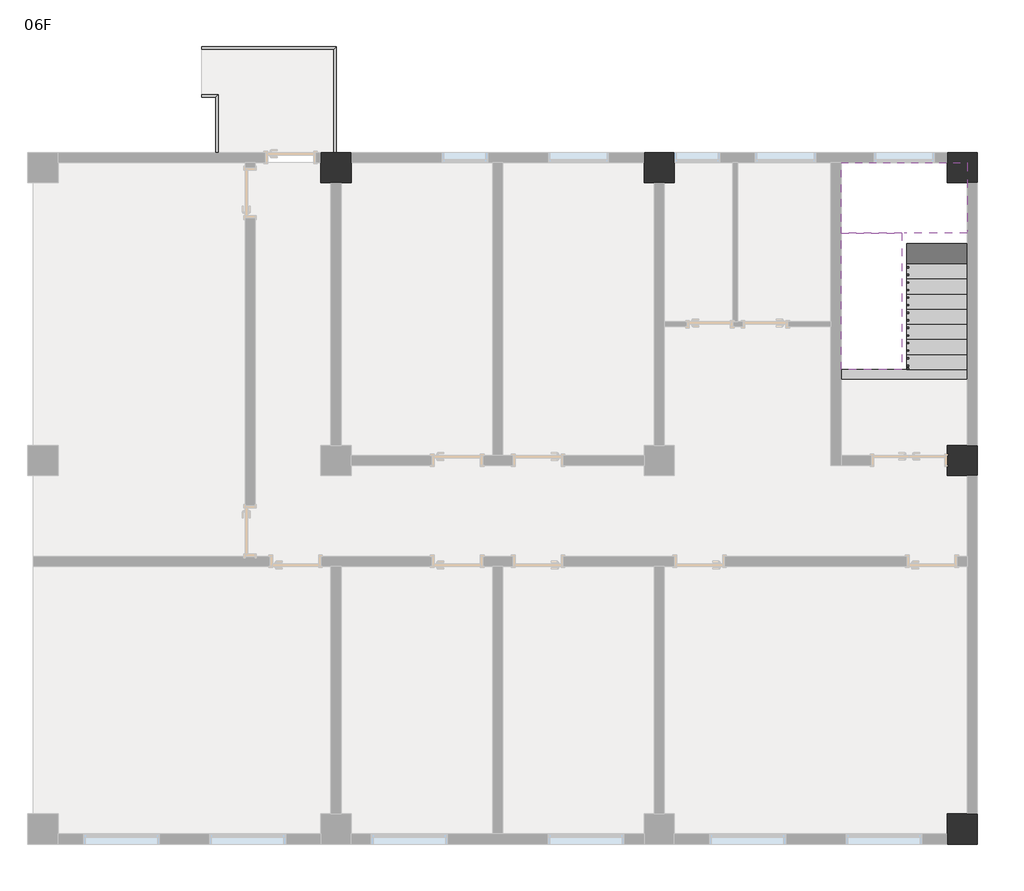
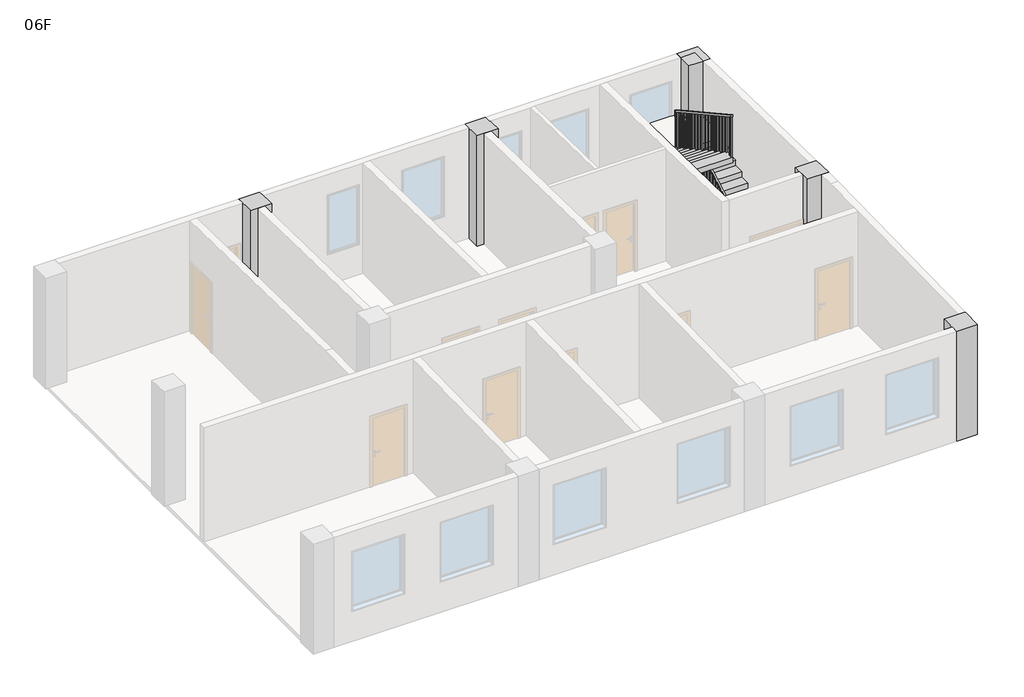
# One storey, part 2 of 2: 5 columns, 3 railings, 2 stair flights, 1 beam, 1 slab.
"""IFC4 building model written with IfcOpenShell, lengths in millimetres."""

from ifc_helpers import new_model, si_unit, frame, origin, place, context, project, spatial, polyline, outline, extrude, faceted_brep, transform, mapped, element, save
from components import beam_200_x_350mm_bc6e23a3

model = new_model("IFC4")

# Units and contexts
model_context = context("Model", 3, world=origin())
ifc_project = project(units=[si_unit("LENGTHUNIT", "METRE", prefix="MILLI")], contexts=[model_context])

# Site, building, storey
site = spatial("IfcSite", under=ifc_project)
building = spatial("IfcBuilding", under=site)
storey = spatial("IfcBuildingStorey", under=building, Name="06F", Elevation=17100.0)

# Beam
placement = place(None, origin())
beam_200_x_350mm_shape = beam_200_x_350mm_bc6e23a3(model_context)
element("IfcBeam", 1, ObjectType="混凝土 - 矩形梁 : 200 x 350mm", at=placement, inside=storey, context=model_context, shape_type="MappedRepresentation", body=[
    mapped(beam_200_x_350mm_shape, transform((17250.0, 9200.0, 16925.0), x_axis=(1.0, 0.0, 0.0), y_axis=(0.0, 1.0, 0.0), z_axis=(0.0, 0.0, 1.0))),
])

# Columns
element("IfcColumn", 2, ObjectType="混凝土 - 矩形 - 柱 : 600 x 600mm", at=placement, inside=storey, context=model_context, shape_type="SweptSolid", body=[
    extrude(outline(polyline([(13600.0, 17100.0), (13000.0, 17100.0), (13000.0, 20411.980002), (13600.0, 20399.980002), (13600.0, 17100.0)])), frame((5700.0, 0.0, 0.0), z_axis=(1.0, 0.0, 0.0), x_axis=(0.0, 1.0, 0.0)), (0.0, 0.0, 1.0), 600.0),
])
element("IfcColumn", 3, ObjectType="混凝土 - 矩形 - 柱 : 600 x 600mm", at=placement, inside=storey, context=model_context, shape_type="SweptSolid", body=[
    extrude(outline(polyline([(13600.0, 17100.0), (13000.0, 17100.0), (13000.0, 20411.980002), (13600.0, 20399.980002), (13600.0, 17100.0)])), frame((12100.0, 0.0, 0.0), z_axis=(1.0, 0.0, 0.0), x_axis=(0.0, 1.0, 0.0)), (0.0, 0.0, 1.0), 600.0),
])
element("IfcColumn", 4, ObjectType="混凝土 - 矩形 - 柱 : 600 x 600mm", at=placement, inside=storey, context=model_context, shape_type="Brep", body=[
    faceted_brep([(18700.0, 13600.0, 17100.0), (18700.0, 13000.0, 17100.0), (18100.0, 13000.0, 17100.0), (18100.0, 13600.0, 17100.0), (18700.0, 13600.0, 20399.980002), (18700.0, 13000.0, 20411.980002), (18500.0, 13000.0, 20411.980002), (18100.0, 13000.0, 20411.980002), (18100.0, 13400.0, 20411.980002), (18100.0, 13400.0, 20403.980002), (18100.0, 13600.0, 20399.980002), (18500.0, 13400.0, 20411.980002), (18500.0, 13400.0, 20403.980002)], [[[0, 1, 2, 3]], [[1, 0, 4, 5]], [[2, 1, 5, 6, 7]], [[3, 2, 7, 8, 9, 10]], [[0, 3, 10, 4]], [[8, 7, 6, 11]], [[12, 6, 5, 4, 10, 9]], [[12, 9, 8, 11]], [[6, 12, 11]]]),
])
element("IfcColumn", 5, ObjectType="混凝土 - 矩形 - 柱 : 600 x 600mm", at=placement, inside=storey, context=model_context, shape_type="SweptSolid", body=[
    extrude(outline(polyline([(7800.0, 17100.0), (7200.0, 17100.0), (7200.0, 20527.980002), (7800.0, 20515.980002), (7800.0, 17100.0)])), frame((18100.0, 0.0, 0.0), z_axis=(1.0, 0.0, 0.0), x_axis=(0.0, 1.0, 0.0)), (0.0, 0.0, 1.0), 600.0),
])
element("IfcColumn", 6, ObjectType="混凝土 - 矩形 - 柱 : 600 x 600mm", at=placement, inside=storey, context=model_context, shape_type="SweptSolid", body=[
    extrude(outline(polyline([(500.0, 17100.0), (-100.0, 17100.0), (-100.0, 20399.980002), (500.0, 20411.980002), (500.0, 17100.0)])), frame((18100.0, 0.0, 0.0), z_axis=(1.0, 0.0, 0.0), x_axis=(0.0, 1.0, 0.0)), (0.0, 0.0, 1.0), 600.0),
])

# Railings
element("IfcRailing", 7, ObjectType="1100mm", at=placement, inside=storey, context=model_context, shape_type="SolidModel", body=[
    faceted_brep([(17300.4, 9300.0, 18365.0), (17300.4, 9300.0, 18307.9364389), (17350.4, 9300.0, 18307.9364389), (17350.4, 9300.0, 18365.0), (17300.4, 11925.4, 19808.97), (17300.4, 11975.4, 19779.4064389), (17350.4, 11975.4, 19779.4064389), (17350.4, 11925.4, 19808.97), (17300.4, 11925.4, 19850.0), (17300.4, 11975.4, 19800.0), (17350.4, 11975.4, 19800.0), (17350.4, 11925.4, 19850.0), (17300.4, 12000.4, 19850.0), (17300.4, 12000.4, 19800.0), (17350.4, 12050.4, 19800.0), (17350.4, 12050.4, 19850.0), (17225.4, 12000.4, 19850.0), (17225.4, 12000.4, 19800.0), (17225.4, 12050.4, 19800.0), (17225.4, 12050.4, 19850.0), (17199.6, 12000.4, 19850.0), (17199.6, 12050.4, 19850.0), (17149.6, 12050.4, 19800.0), (17149.6, 12000.4, 19800.0)], [[[0, 1, 2, 3]], [[1, 0, 4, 5]], [[2, 1, 5, 6]], [[3, 2, 6, 7]], [[0, 3, 7, 4]], [[5, 4, 8, 9]], [[6, 5, 9, 10]], [[7, 6, 10, 11]], [[4, 7, 11, 8]], [[9, 8, 12, 13]], [[10, 9, 13, 14]], [[11, 10, 14, 15]], [[8, 11, 15, 12]], [[13, 12, 16, 17]], [[14, 13, 17, 18]], [[15, 14, 18, 19]], [[12, 15, 19, 16]], [[20, 21, 22, 23]], [[17, 16, 20, 23]], [[18, 17, 23, 22]], [[19, 18, 22, 21]], [[16, 19, 21, 20]]]),
    faceted_brep([(17199.6, 12000.4, 19850.0), (17149.6, 12000.4, 19800.0), (17149.6, 12050.4, 19800.0), (17199.6, 12050.4, 19850.0), (17199.6, 12000.4, 19957.7164389), (17199.6, 12050.4, 19987.28), (17149.6, 12050.4, 19987.28), (17149.6, 12000.4, 19957.7164389)], [[[0, 1, 2, 3]], [[4, 5, 6, 7]], [[1, 0, 4, 7]], [[2, 1, 7, 6]], [[3, 2, 6, 5]], [[0, 3, 5, 4]]]),
    faceted_brep([(17199.6, 12050.4, 19987.28), (17199.6, 12000.4, 19957.7164389), (17149.6, 12000.4, 19957.7164389), (17149.6, 12050.4, 19987.28), (17199.6, 9300.0, 21500.0), (17149.6, 9300.0, 21500.0), (17149.6, 9300.0, 21442.9364389), (17199.6, 9300.0, 21442.9364389)], [[[0, 1, 2, 3]], [[4, 5, 6, 7]], [[1, 0, 4, 7]], [[2, 1, 7, 6]], [[3, 2, 6, 5]], [[0, 3, 5, 4]]]),
    extrude(outline(polyline([(9412.9, 20235.0), (9387.9, 20235.0), (9387.9, 21394.5914389), (9412.9, 21380.8414389), (9412.9, 20235.0)])), frame((17162.1, 0.0, 0.0), z_axis=(1.0, 0.0, 0.0), x_axis=(0.0, 1.0, 0.0)), (0.0, 0.0, 1.0), 25.0),
    extrude(outline(polyline([(9562.9, 20235.0), (9537.9, 20235.0), (9537.9, 21312.0914389), (9562.9, 21298.3414389), (9562.9, 20235.0)])), frame((17162.1, 0.0, 0.0), z_axis=(1.0, 0.0, 0.0), x_axis=(0.0, 1.0, 0.0)), (0.0, 0.0, 1.0), 25.0),
    extrude(outline(polyline([(9712.9, 20070.0), (9687.9, 20070.0), (9687.9, 21229.5914389), (9712.9, 21215.8414389), (9712.9, 20070.0)])), frame((17162.1, 0.0, 0.0), z_axis=(1.0, 0.0, 0.0), x_axis=(0.0, 1.0, 0.0)), (0.0, 0.0, 1.0), 25.0),
    extrude(outline(polyline([(9862.9, 20070.0), (9837.9, 20070.0), (9837.9, 21147.0914389), (9862.9, 21133.3414389), (9862.9, 20070.0)])), frame((17162.1, 0.0, 0.0), z_axis=(1.0, 0.0, 0.0), x_axis=(0.0, 1.0, 0.0)), (0.0, 0.0, 1.0), 25.0),
    extrude(outline(polyline([(10012.9, 19905.0), (9987.9, 19905.0), (9987.9, 21064.5914389), (10012.9, 21050.8414389), (10012.9, 19905.0)])), frame((17162.1, 0.0, 0.0), z_axis=(1.0, 0.0, 0.0), x_axis=(0.0, 1.0, 0.0)), (0.0, 0.0, 1.0), 25.0),
    extrude(outline(polyline([(10162.9, 19905.0), (10137.9, 19905.0), (10137.9, 20982.0914389), (10162.9, 20968.3414389), (10162.9, 19905.0)])), frame((17162.1, 0.0, 0.0), z_axis=(1.0, 0.0, 0.0), x_axis=(0.0, 1.0, 0.0)), (0.0, 0.0, 1.0), 25.0),
    extrude(outline(polyline([(10312.9, 19740.0), (10287.9, 19740.0), (10287.9, 20899.5914389), (10312.9, 20885.8414389), (10312.9, 19740.0)])), frame((17162.1, 0.0, 0.0), z_axis=(1.0, 0.0, 0.0), x_axis=(0.0, 1.0, 0.0)), (0.0, 0.0, 1.0), 25.0),
    extrude(outline(polyline([(10462.9, 19740.0), (10437.9, 19740.0), (10437.9, 20817.0914389), (10462.9, 20803.3414389), (10462.9, 19740.0)])), frame((17162.1, 0.0, 0.0), z_axis=(1.0, 0.0, 0.0), x_axis=(0.0, 1.0, 0.0)), (0.0, 0.0, 1.0), 25.0),
    extrude(outline(polyline([(10612.9, 19575.0), (10587.9, 19575.0), (10587.9, 20734.5914389), (10612.9, 20720.8414389), (10612.9, 19575.0)])), frame((17162.1, 0.0, 0.0), z_axis=(1.0, 0.0, 0.0), x_axis=(0.0, 1.0, 0.0)), (0.0, 0.0, 1.0), 25.0),
    extrude(outline(polyline([(10762.9, 19575.0), (10737.9, 19575.0), (10737.9, 20652.0914389), (10762.9, 20638.3414389), (10762.9, 19575.0)])), frame((17162.1, 0.0, 0.0), z_axis=(1.0, 0.0, 0.0), x_axis=(0.0, 1.0, 0.0)), (0.0, 0.0, 1.0), 25.0),
    extrude(outline(polyline([(10912.9, 19410.0), (10887.9, 19410.0), (10887.9, 20569.5914389), (10912.9, 20555.8414389), (10912.9, 19410.0)])), frame((17162.1, 0.0, 0.0), z_axis=(1.0, 0.0, 0.0), x_axis=(0.0, 1.0, 0.0)), (0.0, 0.0, 1.0), 25.0),
    extrude(outline(polyline([(11062.9, 19410.0), (11037.9, 19410.0), (11037.9, 20487.0914389), (11062.9, 20473.3414389), (11062.9, 19410.0)])), frame((17162.1, 0.0, 0.0), z_axis=(1.0, 0.0, 0.0), x_axis=(0.0, 1.0, 0.0)), (0.0, 0.0, 1.0), 25.0),
    extrude(outline(polyline([(11212.9, 19245.0), (11187.9, 19245.0), (11187.9, 20404.5914389), (11212.9, 20390.8414389), (11212.9, 19245.0)])), frame((17162.1, 0.0, 0.0), z_axis=(1.0, 0.0, 0.0), x_axis=(0.0, 1.0, 0.0)), (0.0, 0.0, 1.0), 25.0),
    extrude(outline(polyline([(11362.9, 19245.0), (11337.9, 19245.0), (11337.9, 20322.0914389), (11362.9, 20308.3414389), (11362.9, 19245.0)])), frame((17162.1, 0.0, 0.0), z_axis=(1.0, 0.0, 0.0), x_axis=(0.0, 1.0, 0.0)), (0.0, 0.0, 1.0), 25.0),
    extrude(outline(polyline([(11512.9, 19080.0), (11487.9, 19080.0), (11487.9, 20239.5914389), (11512.9, 20225.8414389), (11512.9, 19080.0)])), frame((17162.1, 0.0, 0.0), z_axis=(1.0, 0.0, 0.0), x_axis=(0.0, 1.0, 0.0)), (0.0, 0.0, 1.0), 25.0),
    extrude(outline(polyline([(11662.9, 19080.0), (11637.9, 19080.0), (11637.9, 20157.0914389), (11662.9, 20143.3414389), (11662.9, 19080.0)])), frame((17162.1, 0.0, 0.0), z_axis=(1.0, 0.0, 0.0), x_axis=(0.0, 1.0, 0.0)), (0.0, 0.0, 1.0), 25.0),
    extrude(outline(polyline([(11812.9, 18915.0), (11787.9, 18915.0), (11787.9, 20074.5914389), (11812.9, 20060.8414389), (11812.9, 18915.0)])), frame((17162.1, 0.0, 0.0), z_axis=(1.0, 0.0, 0.0), x_axis=(0.0, 1.0, 0.0)), (0.0, 0.0, 1.0), 25.0),
    extrude(outline(polyline([(11962.9, 18915.0), (11937.9, 18915.0), (11937.9, 19992.0914389), (11962.9, 19978.3414389), (11962.9, 18915.0)])), frame((17162.1, 0.0, 0.0), z_axis=(1.0, 0.0, 0.0), x_axis=(0.0, 1.0, 0.0)), (0.0, 0.0, 1.0), 25.0),
    extrude(outline(polyline([(17262.9, 12012.9), (17237.9, 12012.9), (17237.9, 12037.9), (17262.9, 12037.9), (17262.9, 12012.9)])), frame((0.0, 0.0, 18750.0), z_axis=(0.0, 0.0, 1.0), x_axis=(1.0, 0.0, 0.0)), (0.0, 0.0, 1.0), 1050.0),
    extrude(outline(polyline([(11912.5, 19744.8114389), (11937.5, 19758.5614389), (11937.5, 18585.0), (11912.5, 18585.0), (11912.5, 19744.8114389)])), frame((17312.9, 0.0, 0.0), z_axis=(1.0, 0.0, 0.0), x_axis=(0.0, 1.0, 0.0)), (0.0, 0.0, 1.0), 25.0),
    extrude(outline(polyline([(11762.5, 19662.3114389), (11787.5, 19676.0614389), (11787.5, 18585.0), (11762.5, 18585.0), (11762.5, 19662.3114389)])), frame((17312.9, 0.0, 0.0), z_axis=(1.0, 0.0, 0.0), x_axis=(0.0, 1.0, 0.0)), (0.0, 0.0, 1.0), 25.0),
    extrude(outline(polyline([(11612.5, 19579.8114389), (11637.5, 19593.5614389), (11637.5, 18420.0), (11612.5, 18420.0), (11612.5, 19579.8114389)])), frame((17312.9, 0.0, 0.0), z_axis=(1.0, 0.0, 0.0), x_axis=(0.0, 1.0, 0.0)), (0.0, 0.0, 1.0), 25.0),
    extrude(outline(polyline([(11462.5, 19497.3114389), (11487.5, 19511.0614389), (11487.5, 18420.0), (11462.5, 18420.0), (11462.5, 19497.3114389)])), frame((17312.9, 0.0, 0.0), z_axis=(1.0, 0.0, 0.0), x_axis=(0.0, 1.0, 0.0)), (0.0, 0.0, 1.0), 25.0),
    extrude(outline(polyline([(11312.5, 19414.8114389), (11337.5, 19428.5614389), (11337.5, 18255.0), (11312.5, 18255.0), (11312.5, 19414.8114389)])), frame((17312.9, 0.0, 0.0), z_axis=(1.0, 0.0, 0.0), x_axis=(0.0, 1.0, 0.0)), (0.0, 0.0, 1.0), 25.0),
    extrude(outline(polyline([(11162.5, 19332.3114389), (11187.5, 19346.0614389), (11187.5, 18255.0), (11162.5, 18255.0), (11162.5, 19332.3114389)])), frame((17312.9, 0.0, 0.0), z_axis=(1.0, 0.0, 0.0), x_axis=(0.0, 1.0, 0.0)), (0.0, 0.0, 1.0), 25.0),
    extrude(outline(polyline([(11012.5, 19249.8114389), (11037.5, 19263.5614389), (11037.5, 18090.0), (11012.5, 18090.0), (11012.5, 19249.8114389)])), frame((17312.9, 0.0, 0.0), z_axis=(1.0, 0.0, 0.0), x_axis=(0.0, 1.0, 0.0)), (0.0, 0.0, 1.0), 25.0),
    extrude(outline(polyline([(10862.5, 19167.3114389), (10887.5, 19181.0614389), (10887.5, 18090.0), (10862.5, 18090.0), (10862.5, 19167.3114389)])), frame((17312.9, 0.0, 0.0), z_axis=(1.0, 0.0, 0.0), x_axis=(0.0, 1.0, 0.0)), (0.0, 0.0, 1.0), 25.0),
    extrude(outline(polyline([(10712.5, 19084.8114389), (10737.5, 19098.5614389), (10737.5, 17925.0), (10712.5, 17925.0), (10712.5, 19084.8114389)])), frame((17312.9, 0.0, 0.0), z_axis=(1.0, 0.0, 0.0), x_axis=(0.0, 1.0, 0.0)), (0.0, 0.0, 1.0), 25.0),
    extrude(outline(polyline([(10562.5, 19002.3114389), (10587.5, 19016.0614389), (10587.5, 17925.0), (10562.5, 17925.0), (10562.5, 19002.3114389)])), frame((17312.9, 0.0, 0.0), z_axis=(1.0, 0.0, 0.0), x_axis=(0.0, 1.0, 0.0)), (0.0, 0.0, 1.0), 25.0),
    extrude(outline(polyline([(10412.5, 18919.8114389), (10437.5, 18933.5614389), (10437.5, 17760.0), (10412.5, 17760.0), (10412.5, 18919.8114389)])), frame((17312.9, 0.0, 0.0), z_axis=(1.0, 0.0, 0.0), x_axis=(0.0, 1.0, 0.0)), (0.0, 0.0, 1.0), 25.0),
    extrude(outline(polyline([(10262.5, 18837.3114389), (10287.5, 18851.0614389), (10287.5, 17760.0), (10262.5, 17760.0), (10262.5, 18837.3114389)])), frame((17312.9, 0.0, 0.0), z_axis=(1.0, 0.0, 0.0), x_axis=(0.0, 1.0, 0.0)), (0.0, 0.0, 1.0), 25.0),
    extrude(outline(polyline([(10112.5, 18754.8114389), (10137.5, 18768.5614389), (10137.5, 17595.0), (10112.5, 17595.0), (10112.5, 18754.8114389)])), frame((17312.9, 0.0, 0.0), z_axis=(1.0, 0.0, 0.0), x_axis=(0.0, 1.0, 0.0)), (0.0, 0.0, 1.0), 25.0),
    extrude(outline(polyline([(9962.5, 18672.3114389), (9987.5, 18686.0614389), (9987.5, 17595.0), (9962.5, 17595.0), (9962.5, 18672.3114389)])), frame((17312.9, 0.0, 0.0), z_axis=(1.0, 0.0, 0.0), x_axis=(0.0, 1.0, 0.0)), (0.0, 0.0, 1.0), 25.0),
    extrude(outline(polyline([(9812.5, 18589.8114389), (9837.5, 18603.5614389), (9837.5, 17430.0), (9812.5, 17430.0), (9812.5, 18589.8114389)])), frame((17312.9, 0.0, 0.0), z_axis=(1.0, 0.0, 0.0), x_axis=(0.0, 1.0, 0.0)), (0.0, 0.0, 1.0), 25.0),
    extrude(outline(polyline([(9662.5, 18507.3114389), (9687.5, 18521.0614389), (9687.5, 17430.0), (9662.5, 17430.0), (9662.5, 18507.3114389)])), frame((17312.9, 0.0, 0.0), z_axis=(1.0, 0.0, 0.0), x_axis=(0.0, 1.0, 0.0)), (0.0, 0.0, 1.0), 25.0),
    extrude(outline(polyline([(9512.5, 18424.8114389), (9537.5, 18438.5614389), (9537.5, 17265.0), (9512.5, 17265.0), (9512.5, 18424.8114389)])), frame((17312.9, 0.0, 0.0), z_axis=(1.0, 0.0, 0.0), x_axis=(0.0, 1.0, 0.0)), (0.0, 0.0, 1.0), 25.0),
    extrude(outline(polyline([(9362.5, 18342.3114389), (9387.5, 18356.0614389), (9387.5, 17265.0), (9362.5, 17265.0), (9362.5, 18342.3114389)])), frame((17312.9, 0.0, 0.0), z_axis=(1.0, 0.0, 0.0), x_axis=(0.0, 1.0, 0.0)), (0.0, 0.0, 1.0), 25.0),
    extrude(outline(polyline([(17187.1, 12037.9), (17187.1, 12012.9), (17162.1, 12012.9), (17162.1, 12037.9), (17187.1, 12037.9)])), frame((0.0, 0.0, 18750.0), z_axis=(0.0, 0.0, 1.0), x_axis=(1.0, 0.0, 0.0)), (0.0, 0.0, 1.0), 1050.0),
    extrude(outline(polyline([(17312.9, 12012.9), (17312.9, 12037.9), (17337.9, 12037.9), (17337.9, 12012.9), (17312.9, 12012.9)])), frame((0.0, 0.0, 18750.0), z_axis=(0.0, 0.0, 1.0), x_axis=(1.0, 0.0, 0.0)), (0.0, 0.0, 1.0), 1050.0),
    extrude(outline(polyline([(17312.9, 11987.5), (17312.9, 12012.5), (17337.9, 12012.5), (17337.9, 11987.5), (17312.9, 11987.5)])), frame((0.0, 0.0, 18750.0), z_axis=(0.0, 0.0, 1.0), x_axis=(1.0, 0.0, 0.0)), (0.0, 0.0, 1.0), 1050.0),
    extrude(outline(polyline([(9325.0, 20235.0), (9300.0, 20235.0), (9300.0, 21442.9364389), (9325.0, 21429.1864389), (9325.0, 20235.0)])), frame((17162.1, 0.0, 0.0), z_axis=(1.0, 0.0, 0.0), x_axis=(0.0, 1.0, 0.0)), (0.0, 0.0, 1.0), 25.0),
    extrude(outline(polyline([(9300.0, 18307.9364389), (9325.0, 18321.6864389), (9325.0, 17265.0), (9300.0, 17265.0), (9300.0, 18307.9364389)])), frame((17312.9, 0.0, 0.0), z_axis=(1.0, 0.0, 0.0), x_axis=(0.0, 1.0, 0.0)), (0.0, 0.0, 1.0), 25.0),
])
element("IfcRailing", 8, ObjectType="1100mm", at=placement, inside=storey, context=model_context, shape_type="SolidModel", body=[
    faceted_brep([(3670.0, 13600.0, 18200.0), (3620.0, 13600.0, 18200.0), (3620.0, 13600.0, 18150.0), (3670.0, 13600.0, 18150.0), (3670.0, 14750.0, 18150.0), (3670.0, 14750.0, 18200.0), (3620.0, 14700.0, 18150.0), (3620.0, 14700.0, 18200.0), (3340.0, 14750.0, 18200.0), (3340.0, 14750.0, 18150.0), (3340.0, 14700.0, 18150.0), (3340.0, 14700.0, 18200.0)], [[[0, 1, 2, 3]], [[4, 5, 0, 3]], [[6, 4, 3, 2]], [[7, 6, 2, 1]], [[5, 7, 1, 0]], [[8, 9, 10, 11]], [[9, 8, 5, 4]], [[10, 9, 4, 6]], [[11, 10, 6, 7]], [[8, 11, 7, 5]]]),
    extrude(outline(polyline([(3632.5, 13637.5), (3657.5, 13637.5), (3657.5, 13612.5), (3632.5, 13612.5), (3632.5, 13637.5)])), frame((0.0, 0.0, 17100.0), z_axis=(0.0, 0.0, 1.0), x_axis=(1.0, 0.0, 0.0)), (0.0, 0.0, 1.0), 1050.0),
    extrude(outline(polyline([(3632.5, 13912.5), (3657.5, 13912.5), (3657.5, 13887.5), (3632.5, 13887.5), (3632.5, 13912.5)])), frame((0.0, 0.0, 17100.0), z_axis=(0.0, 0.0, 1.0), x_axis=(1.0, 0.0, 0.0)), (0.0, 0.0, 1.0), 1050.0),
    extrude(outline(polyline([(3632.5, 14187.5), (3657.5, 14187.5), (3657.5, 14162.5), (3632.5, 14162.5), (3632.5, 14187.5)])), frame((0.0, 0.0, 17100.0), z_axis=(0.0, 0.0, 1.0), x_axis=(1.0, 0.0, 0.0)), (0.0, 0.0, 1.0), 1050.0),
    extrude(outline(polyline([(3632.5, 14462.5), (3657.5, 14462.5), (3657.5, 14437.5), (3632.5, 14437.5), (3632.5, 14462.5)])), frame((0.0, 0.0, 17100.0), z_axis=(0.0, 0.0, 1.0), x_axis=(1.0, 0.0, 0.0)), (0.0, 0.0, 1.0), 1050.0),
    extrude(outline(polyline([(3602.5, 14712.5), (3602.5, 14737.5), (3627.5, 14737.5), (3627.5, 14712.5), (3602.5, 14712.5)])), frame((0.0, 0.0, 17100.0), z_axis=(0.0, 0.0, 1.0), x_axis=(1.0, 0.0, 0.0)), (0.0, 0.0, 1.0), 1050.0),
    extrude(outline(polyline([(3632.5, 14712.5), (3632.5, 14737.5), (3657.5, 14737.5), (3657.5, 14712.5), (3632.5, 14712.5)])), frame((0.0, 0.0, 17100.0), z_axis=(0.0, 0.0, 1.0), x_axis=(1.0, 0.0, 0.0)), (0.0, 0.0, 1.0), 1050.0),
    extrude(outline(polyline([(3632.5, 13625.0), (3657.5, 13625.0), (3657.5, 13600.0), (3632.5, 13600.0), (3632.5, 13625.0)])), frame((0.0, 0.0, 17100.0), z_axis=(0.0, 0.0, 1.0), x_axis=(1.0, 0.0, 0.0)), (0.0, 0.0, 1.0), 1050.0),
    extrude(outline(polyline([(3340.0, 14712.5), (3340.0, 14737.5), (3365.0, 14737.5), (3365.0, 14712.5), (3340.0, 14712.5)])), frame((0.0, 0.0, 17100.0), z_axis=(0.0, 0.0, 1.0), x_axis=(1.0, 0.0, 0.0)), (0.0, 0.0, 1.0), 1050.0),
])
element("IfcRailing", 9, ObjectType="1100mm", at=placement, inside=storey, context=model_context, shape_type="SolidModel", body=[
    faceted_brep([(3340.0, 15699.6, 18200.0), (3340.0, 15699.6, 18150.0), (3340.0, 15649.6, 18150.0), (3340.0, 15649.6, 18200.0), (6000.0, 15699.6, 18200.0), (6000.0, 15699.6, 18150.0), (5950.0, 15649.6, 18150.0), (5950.0, 15649.6, 18200.0), (6000.0, 13600.0, 18200.0), (5950.0, 13600.0, 18200.0), (5950.0, 13600.0, 18150.0), (6000.0, 13600.0, 18150.0)], [[[0, 1, 2, 3]], [[1, 0, 4, 5]], [[2, 1, 5, 6]], [[3, 2, 6, 7]], [[0, 3, 7, 4]], [[8, 9, 10, 11]], [[5, 4, 8, 11]], [[6, 5, 11, 10]], [[7, 6, 10, 9]], [[4, 7, 9, 8]]]),
    extrude(outline(polyline([(5962.5, 13762.1), (5987.5, 13762.1), (5987.5, 13737.1), (5962.5, 13737.1), (5962.5, 13762.1)])), frame((0.0, 0.0, 17100.0), z_axis=(0.0, 0.0, 1.0), x_axis=(1.0, 0.0, 0.0)), (0.0, 0.0, 1.0), 1050.0),
    extrude(outline(polyline([(5962.5, 14037.1), (5987.5, 14037.1), (5987.5, 14012.1), (5962.5, 14012.1), (5962.5, 14037.1)])), frame((0.0, 0.0, 17100.0), z_axis=(0.0, 0.0, 1.0), x_axis=(1.0, 0.0, 0.0)), (0.0, 0.0, 1.0), 1050.0),
    extrude(outline(polyline([(5962.5, 14312.1), (5987.5, 14312.1), (5987.5, 14287.1), (5962.5, 14287.1), (5962.5, 14312.1)])), frame((0.0, 0.0, 17100.0), z_axis=(0.0, 0.0, 1.0), x_axis=(1.0, 0.0, 0.0)), (0.0, 0.0, 1.0), 1050.0),
    extrude(outline(polyline([(5962.5, 14587.1), (5987.5, 14587.1), (5987.5, 14562.1), (5962.5, 14562.1), (5962.5, 14587.1)])), frame((0.0, 0.0, 17100.0), z_axis=(0.0, 0.0, 1.0), x_axis=(1.0, 0.0, 0.0)), (0.0, 0.0, 1.0), 1050.0),
    extrude(outline(polyline([(5962.5, 14862.1), (5987.5, 14862.1), (5987.5, 14837.1), (5962.5, 14837.1), (5962.5, 14862.1)])), frame((0.0, 0.0, 17100.0), z_axis=(0.0, 0.0, 1.0), x_axis=(1.0, 0.0, 0.0)), (0.0, 0.0, 1.0), 1050.0),
    extrude(outline(polyline([(5962.5, 15137.1), (5987.5, 15137.1), (5987.5, 15112.1), (5962.5, 15112.1), (5962.5, 15137.1)])), frame((0.0, 0.0, 17100.0), z_axis=(0.0, 0.0, 1.0), x_axis=(1.0, 0.0, 0.0)), (0.0, 0.0, 1.0), 1050.0),
    extrude(outline(polyline([(5962.5, 15412.1), (5987.5, 15412.1), (5987.5, 15387.1), (5962.5, 15387.1), (5962.5, 15412.1)])), frame((0.0, 0.0, 17100.0), z_axis=(0.0, 0.0, 1.0), x_axis=(1.0, 0.0, 0.0)), (0.0, 0.0, 1.0), 1050.0),
    extrude(outline(polyline([(5802.5, 15662.1), (5802.5, 15687.1), (5827.5, 15687.1), (5827.5, 15662.1), (5802.5, 15662.1)])), frame((0.0, 0.0, 17100.0), z_axis=(0.0, 0.0, 1.0), x_axis=(1.0, 0.0, 0.0)), (0.0, 0.0, 1.0), 1050.0),
    extrude(outline(polyline([(5527.5, 15662.1), (5527.5, 15687.1), (5552.5, 15687.1), (5552.5, 15662.1), (5527.5, 15662.1)])), frame((0.0, 0.0, 17100.0), z_axis=(0.0, 0.0, 1.0), x_axis=(1.0, 0.0, 0.0)), (0.0, 0.0, 1.0), 1050.0),
    extrude(outline(polyline([(5252.5, 15662.1), (5252.5, 15687.1), (5277.5, 15687.1), (5277.5, 15662.1), (5252.5, 15662.1)])), frame((0.0, 0.0, 17100.0), z_axis=(0.0, 0.0, 1.0), x_axis=(1.0, 0.0, 0.0)), (0.0, 0.0, 1.0), 1050.0),
    extrude(outline(polyline([(4977.5, 15662.1), (4977.5, 15687.1), (5002.5, 15687.1), (5002.5, 15662.1), (4977.5, 15662.1)])), frame((0.0, 0.0, 17100.0), z_axis=(0.0, 0.0, 1.0), x_axis=(1.0, 0.0, 0.0)), (0.0, 0.0, 1.0), 1050.0),
    extrude(outline(polyline([(4702.5, 15662.1), (4702.5, 15687.1), (4727.5, 15687.1), (4727.5, 15662.1), (4702.5, 15662.1)])), frame((0.0, 0.0, 17100.0), z_axis=(0.0, 0.0, 1.0), x_axis=(1.0, 0.0, 0.0)), (0.0, 0.0, 1.0), 1050.0),
    extrude(outline(polyline([(4427.5, 15662.1), (4427.5, 15687.1), (4452.5, 15687.1), (4452.5, 15662.1), (4427.5, 15662.1)])), frame((0.0, 0.0, 17100.0), z_axis=(0.0, 0.0, 1.0), x_axis=(1.0, 0.0, 0.0)), (0.0, 0.0, 1.0), 1050.0),
    extrude(outline(polyline([(4152.5, 15662.1), (4152.5, 15687.1), (4177.5, 15687.1), (4177.5, 15662.1), (4152.5, 15662.1)])), frame((0.0, 0.0, 17100.0), z_axis=(0.0, 0.0, 1.0), x_axis=(1.0, 0.0, 0.0)), (0.0, 0.0, 1.0), 1050.0),
    extrude(outline(polyline([(3877.5, 15662.1), (3877.5, 15687.1), (3902.5, 15687.1), (3902.5, 15662.1), (3877.5, 15662.1)])), frame((0.0, 0.0, 17100.0), z_axis=(0.0, 0.0, 1.0), x_axis=(1.0, 0.0, 0.0)), (0.0, 0.0, 1.0), 1050.0),
    extrude(outline(polyline([(3602.5, 15662.1), (3602.5, 15687.1), (3627.5, 15687.1), (3627.5, 15662.1), (3602.5, 15662.1)])), frame((0.0, 0.0, 17100.0), z_axis=(0.0, 0.0, 1.0), x_axis=(1.0, 0.0, 0.0)), (0.0, 0.0, 1.0), 1050.0),
    extrude(outline(polyline([(5962.5, 15662.1), (5962.5, 15687.1), (5987.5, 15687.1), (5987.5, 15662.1), (5962.5, 15662.1)])), frame((0.0, 0.0, 17100.0), z_axis=(0.0, 0.0, 1.0), x_axis=(1.0, 0.0, 0.0)), (0.0, 0.0, 1.0), 1050.0),
    extrude(outline(polyline([(5962.5, 13625.0), (5987.5, 13625.0), (5987.5, 13600.0), (5962.5, 13600.0), (5962.5, 13625.0)])), frame((0.0, 0.0, 17100.0), z_axis=(0.0, 0.0, 1.0), x_axis=(1.0, 0.0, 0.0)), (0.0, 0.0, 1.0), 1050.0),
    extrude(outline(polyline([(3340.0, 15662.1), (3340.0, 15687.1), (3365.0, 15687.1), (3365.0, 15662.1), (3340.0, 15662.1)])), frame((0.0, 0.0, 17100.0), z_axis=(0.0, 0.0, 1.0), x_axis=(1.0, 0.0, 0.0)), (0.0, 0.0, 1.0), 1050.0),
])

# Slab
element("IfcSlab", 10, ObjectType="300mm 厚度", at=placement, inside=storey, context=model_context, shape_type="Brep", body=[
    faceted_brep([(17300.0, 12000.0, 18750.0), (18500.0, 12000.0, 18750.0), (18500.0, 12065.8012421, 18750.0), (18500.0, 13400.0, 18750.0), (16000.0, 13400.0, 18750.0), (16000.0, 12234.1987579, 18750.0), (16000.0, 12000.0, 18750.0), (17200.0, 12000.0, 18750.0), (17300.0, 12000.0, 18450.0), (17300.0, 12000.0, 18413.8093168), (18500.0, 12000.0, 18413.8093168), (18500.0, 12000.0, 18585.0), (18500.0, 12065.8012421, 18450.0), (18500.0, 13400.0, 18450.0), (16000.0, 13400.0, 18450.0), (16000.0, 12234.1987579, 18450.0), (16000.0, 12000.0, 18578.8093168), (17200.0, 12000.0, 18578.8093168), (17200.0, 12000.0, 18450.0), (17200.0, 12234.1987579, 18450.0), (17300.0, 12065.8012421, 18450.0)], [[[0, 1, 2, 3, 4, 5, 6, 7]], [[1, 0, 8, 9, 10, 11]], [[1, 11, 10, 12, 13, 3, 2]], [[4, 3, 13, 14]], [[4, 14, 15, 16, 6, 5]], [[7, 6, 16, 17]], [[0, 7, 17, 18, 8]], [[18, 19, 15, 14, 13, 12, 20, 8]], [[19, 18, 17]], [[20, 12, 10, 9]], [[8, 20, 9]], [[15, 19, 17, 16]]]),
])

# Stair flights
element("IfcStairFlight", 11, ObjectType="150mm 结构深度", at=placement, inside=storey, context=model_context, shape_type="Brep", body=[
    faceted_brep([(17300.0, 9600.0, 17265.0), (17300.0, 9300.0, 17265.0), (18500.0, 9300.0, 17265.0), (18500.0, 9600.0, 17265.0), (17300.0, 9600.0, 17100.0), (17300.0, 9300.0, 17100.0), (18500.0, 9300.0, 17100.0), (18500.0, 9600.0, 17100.0), (17300.0, 9900.0, 17430.0), (17300.0, 9600.0, 17430.0), (18500.0, 9600.0, 17430.0), (18500.0, 9900.0, 17430.0), (17300.0, 9900.0, 17258.8093168), (17300.0, 9611.2557876, 17100.0), (18500.0, 9611.2557876, 17100.0), (18500.0, 9900.0, 17258.8093168), (17300.0, 10200.0, 17595.0), (17300.0, 9900.0, 17595.0), (18500.0, 9900.0, 17595.0), (18500.0, 10200.0, 17595.0), (17300.0, 10200.0, 17423.8093168), (18500.0, 10200.0, 17423.8093168), (17300.0, 10500.0, 17760.0), (17300.0, 10200.0, 17760.0), (18500.0, 10200.0, 17760.0), (18500.0, 10500.0, 17760.0), (17300.0, 10500.0, 17588.8093168), (18500.0, 10500.0, 17588.8093168), (17300.0, 10800.0, 17925.0), (17300.0, 10500.0, 17925.0), (18500.0, 10500.0, 17925.0), (18500.0, 10800.0, 17925.0), (17300.0, 10800.0, 17753.8093168), (18500.0, 10800.0, 17753.8093168), (17300.0, 11100.0, 18090.0), (17300.0, 10800.0, 18090.0), (18500.0, 10800.0, 18090.0), (18500.0, 11100.0, 18090.0), (17300.0, 11100.0, 17918.8093168), (18500.0, 11100.0, 17918.8093168), (17300.0, 11400.0, 18255.0), (17300.0, 11100.0, 18255.0), (18500.0, 11100.0, 18255.0), (18500.0, 11400.0, 18255.0), (17300.0, 11400.0, 18083.8093168), (18500.0, 11400.0, 18083.8093168), (17300.0, 11700.0, 18420.0), (17300.0, 11400.0, 18420.0), (18500.0, 11400.0, 18420.0), (18500.0, 11700.0, 18420.0), (17300.0, 11700.0, 18248.8093168), (18500.0, 11700.0, 18248.8093168), (17300.0, 12000.0, 18585.0), (17300.0, 11700.0, 18585.0), (18500.0, 11700.0, 18585.0), (18500.0, 12000.0, 18585.0), (17300.0, 12000.0, 18450.0), (17300.0, 12000.0, 18413.8093168), (18500.0, 12000.0, 18413.8093168)], [[[0, 1, 2, 3]], [[1, 0, 4, 5]], [[2, 1, 5, 6]], [[3, 2, 6, 7]], [[8, 9, 10, 11]], [[4, 0, 9, 8, 12, 13]], [[0, 3, 10, 9]], [[3, 7, 14, 15, 11, 10]], [[16, 17, 18, 19]], [[17, 16, 20, 12, 8]], [[8, 11, 18, 17]], [[19, 18, 11, 15, 21]], [[22, 23, 24, 25]], [[23, 22, 26, 20, 16]], [[16, 19, 24, 23]], [[25, 24, 19, 21, 27]], [[28, 29, 30, 31]], [[29, 28, 32, 26, 22]], [[22, 25, 30, 29]], [[31, 30, 25, 27, 33]], [[34, 35, 36, 37]], [[35, 34, 38, 32, 28]], [[28, 31, 36, 35]], [[37, 36, 31, 33, 39]], [[40, 41, 42, 43]], [[41, 40, 44, 38, 34]], [[34, 37, 42, 41]], [[43, 42, 37, 39, 45]], [[46, 47, 48, 49]], [[47, 46, 50, 44, 40]], [[40, 43, 48, 47]], [[49, 48, 43, 45, 51]], [[52, 53, 54, 55]], [[53, 52, 56, 57, 50, 46]], [[46, 49, 54, 53]], [[55, 54, 49, 51, 58]], [[52, 55, 58, 57, 56]], [[5, 4, 13, 14, 7, 6]], [[14, 13, 12, 20, 26, 32, 38, 44, 50, 57, 58, 51, 45, 39, 33, 27, 21, 15]]]),
])
element("IfcStairFlight", 12, ObjectType="150mm 结构深度", at=placement, inside=storey, context=model_context, shape_type="Brep", body=[
    faceted_brep([(17200.0, 11700.0, 18915.0), (17200.0, 12000.0, 18915.0), (16000.0, 12000.0, 18915.0), (16000.0, 11700.0, 18915.0), (17200.0, 11700.0, 18743.8093168), (17200.0, 12000.0, 18578.8093168), (16000.0, 12000.0, 18578.8093168), (16000.0, 12000.0, 18750.0), (16000.0, 11700.0, 18743.8093168), (17200.0, 11400.0, 19080.0), (17200.0, 11700.0, 19080.0), (16000.0, 11700.0, 19080.0), (16000.0, 11400.0, 19080.0), (17200.0, 11400.0, 18908.8093168), (16000.0, 11400.0, 18908.8093168), (17200.0, 11100.0, 19245.0), (17200.0, 11400.0, 19245.0), (16000.0, 11400.0, 19245.0), (16000.0, 11100.0, 19245.0), (17200.0, 11100.0, 19073.8093168), (16000.0, 11100.0, 19073.8093168), (17200.0, 10800.0, 19410.0), (17200.0, 11100.0, 19410.0), (16000.0, 11100.0, 19410.0), (16000.0, 10800.0, 19410.0), (17200.0, 10800.0, 19238.8093168), (16000.0, 10800.0, 19238.8093168), (17200.0, 10500.0, 19575.0), (17200.0, 10800.0, 19575.0), (16000.0, 10800.0, 19575.0), (16000.0, 10500.0, 19575.0), (17200.0, 10500.0, 19403.8093168), (16000.0, 10500.0, 19403.8093168), (17200.0, 10200.0, 19740.0), (17200.0, 10500.0, 19740.0), (16000.0, 10500.0, 19740.0), (16000.0, 10200.0, 19740.0), (17200.0, 10200.0, 19568.8093168), (16000.0, 10200.0, 19568.8093168), (17200.0, 9900.0, 19905.0), (17200.0, 10200.0, 19905.0), (16000.0, 10200.0, 19905.0), (16000.0, 9900.0, 19905.0), (17200.0, 9900.0, 19733.8093168), (16000.0, 9900.0, 19733.8093168), (17200.0, 9600.0, 20070.0), (17200.0, 9900.0, 20070.0), (16000.0, 9900.0, 20070.0), (16000.0, 9600.0, 20070.0), (17200.0, 9600.0, 19898.8093168), (16000.0, 9600.0, 19898.8093168), (17200.0, 9300.0, 20235.0), (17200.0, 9600.0, 20235.0), (16000.0, 9600.0, 20235.0), (16000.0, 9300.0, 20235.0), (17200.0, 9300.0, 20063.8093168), (16000.0, 9300.0, 20063.8093168)], [[[0, 1, 2, 3]], [[1, 0, 4, 5]], [[2, 1, 5, 6, 7]], [[3, 2, 7, 6, 8]], [[9, 10, 11, 12]], [[10, 9, 13, 4, 0]], [[11, 10, 0, 3]], [[12, 11, 3, 8, 14]], [[15, 16, 17, 18]], [[16, 15, 19, 13, 9]], [[17, 16, 9, 12]], [[18, 17, 12, 14, 20]], [[21, 22, 23, 24]], [[22, 21, 25, 19, 15]], [[23, 22, 15, 18]], [[24, 23, 18, 20, 26]], [[27, 28, 29, 30]], [[28, 27, 31, 25, 21]], [[29, 28, 21, 24]], [[30, 29, 24, 26, 32]], [[33, 34, 35, 36]], [[34, 33, 37, 31, 27]], [[35, 34, 27, 30]], [[36, 35, 30, 32, 38]], [[39, 40, 41, 42]], [[40, 39, 43, 37, 33]], [[41, 40, 33, 36]], [[42, 41, 36, 38, 44]], [[45, 46, 47, 48]], [[46, 45, 49, 43, 39]], [[47, 46, 39, 42]], [[48, 47, 42, 44, 50]], [[51, 52, 53, 54]], [[52, 51, 55, 49, 45]], [[53, 52, 45, 48]], [[54, 53, 48, 50, 56]], [[51, 54, 56, 55]], [[5, 4, 13, 19, 25, 31, 37, 43, 49, 55, 56, 50, 44, 38, 32, 26, 20, 14, 8, 6]]]),
])

save(model, "model.ifc")
